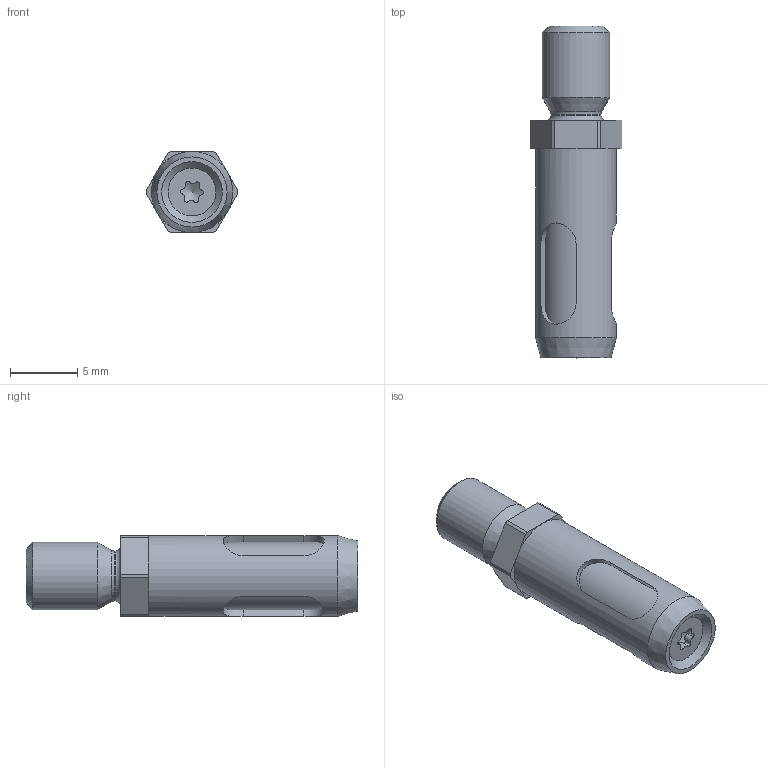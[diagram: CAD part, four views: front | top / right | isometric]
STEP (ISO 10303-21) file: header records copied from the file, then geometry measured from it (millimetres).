
FILE_DESCRIPTION(/* description */ (''),/* implementation_level */ '2;1');
FILE_NAME(/* name */ '\\dc01\daten\CAD\Standard\Daten\3D-Datenbank\GI\GIS\4 - 3D-CAD-Daten GIS 004-020\G-GIS006\G-GIS006_Rev.1.02.stp',/* time_stamp */ '2022-11-29T15:53:35+01:00',/* author */ ('ysplieth'),/* organization */ (''),/* preprocessor_version */ 'ST-DEVELOPER v17',/* originating_system */ 'Autodesk Inventor 2018',/* authorisation */ '');
FILE_SCHEMA (('AUTOMOTIVE_DESIGN { 1 0 10303 214 3 1 1 }'));
Length unit declared in the file: millimetre
Products named in the file (1): Bauteil13
Bounding box: 6.8 x 24.6 x 6 mm (x, y, z)
Volume: 471.8 mm3; surface area: 1058.2 mm2
Topology: 1 solids, 3 shells, 82 faces, 226 edges, 154 vertices
Faces by surface type: cylinder 39, plane 28, cone 12, torus 3
Full cylindrical faces by diameter (mm): 1.567 x1, 2.2 x1, 2.3 x2, 2.459 x1, 3.7 x1, 3.8 x1, 4 x1, 4.9 x1, 5 x2, 6 x1
Entity records: 3240 total; most frequent: CARTESIAN_POINT 993, ORIENTED_EDGE 446, DIRECTION 445, EDGE_CURVE 223, AXIS2_PLACEMENT_3D 176, VERTEX_POINT 154, EDGE_LOOP 95, LINE 93
